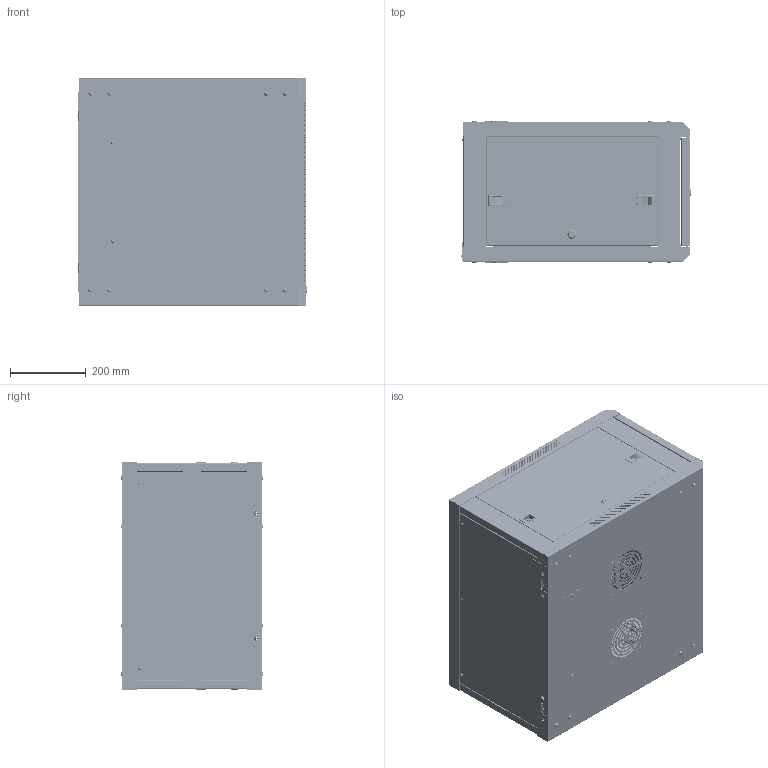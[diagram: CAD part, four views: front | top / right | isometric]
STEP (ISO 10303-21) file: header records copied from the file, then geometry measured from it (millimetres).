
FILE_DESCRIPTION( ( 'Unknown' ), '1' );
FILE_NAME( 'Q:/WEB DRAWINGS/STEP/RB-FW6.stp', 'Unknown', ( 'Unknown' ), ( 'Unknown' ), 'PSStep 16.0.42', 'Unknown', ' ' );
FILE_SCHEMA( ( 'AUTOMOTIVE_DESIGN { 1 0 10303 214 1 1 1 1 }' ) );
Length unit declared in the file: millimetre
Products named in the file (42): ÓÒÃÅ±ßº¸½Ó; ²£Á§ÓÒÃÅ±ß; ²£Á§Ñ¹Ìõ; ²åÏú×ø; M6ÖÐº¸ÂÝ¶¤; ×óÃÅ±ßº¸½Ó; ²£Á§×óÃÅ±ß; 20Ð¡Ô²Ëø; ËøÐ¾-20; ÂÝÄ¸ËøÐ¾; ²àÃÅËøÆ¬; curved single coil spring lock washers gb_GB_FASTENER_WASHER_CSLW 5; µæÈ¦M4; M4-10; ¿òº¸½Ó; ÉÏÏÂ¿ò; ×óÓÒ¿ò; ÃÅ×°Åä; ²£Á§; ²åÏú; µ¯»É; »º³åµæ; ½ÓµØ±êÖ¾; lock washer spring extra duty_ai_Extra Duty LW 0.216; flat washer type a narrow_ai_Preferred Narrow FW 0.19; hex nuts, style 1-grades ab gb_GB_FASTENER_NUT_SNAB1 M6-N; Assem1; µ×ÅÌ; ¶¥¸Ç; ºáÖ§¼Ü; ºó°å; Ö§¼Ü; ²àÃÅ; sk; ¸Ç°å; socket button head cap screw_ai_SBHCSCREW 0.25-20x0.4375-HX-N; hex flange nut_am_B18.2.2.4M - Hex flange nut, M8 x 1.25 --N; M4-8; ¹ÒÇ½°å; Ö§¼Ü2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
Assembly tree (114 placements, depth 4):
  Assem1
    µ×ÅÌ
    ¶¥¸Ç
    ºáÖ§¼Ü  x4
    ºó°å
    Ö§¼Ü  x2
    ²àÃÅ  x2
    sk  x4
    ¸Ç°å  x2
    socket button head cap screw_ai_SBHCSCREW 0.25-20x0.4375-HX-N  x16
    hex flange nut_am_B18.2.2.4M - Hex flange nut, M8 x 1.25 --N  x16
    M4-8  x12
    ¹ÒÇ½°å
    ½ÓµØ±êÖ¾
    Ö§¼Ü2  x2
    M6ÖÐº¸ÂÝ¶¤
    hex nuts, style 1-grades ab gb_GB_FASTENER_NUT_SNAB1 M6-N
    flat washer type a narrow_ai_Preferred Narrow FW 0.19
    lock washer spring extra duty_ai_Extra Duty LW 0.216
    3MMËÜÁÏµæÈ¦
    M5-10×Ô¹¥ÂÝ¶¤  x8
    ¿òº¸½Ó  x2
      ÉÏÏÂ¿ò
      ×óÓÒ¿ò
    ÃÅ×°Åä
      ²£Á§
      ²åÏú  x2
      µ¯»É  x2
      »º³åµæ  x2
      ½ÓµØ±êÖ¾
      lock washer spring extra duty_ai_Extra Duty LW 0.216
      flat washer type a narrow_ai_Preferred Narrow FW 0.19
      hex nuts, style 1-grades ab gb_GB_FASTENER_NUT_SNAB1 M6-N
      ×óÃÅ±ßº¸½Ó
        ²£Á§×óÃÅ±ß
        ²£Á§Ñ¹Ìõ
      ÓÒÃÅ±ßº¸½Ó
        ²£Á§ÓÒÃÅ±ß
        ²£Á§Ñ¹Ìõ
        ²åÏú×ø  x2
        M6ÖÐº¸ÂÝ¶¤
      20Ð¡Ô²Ëø
        ËøÐ¾-20
        ÂÝÄ¸ËøÐ¾
        ²àÃÅËøÆ¬
        curved single coil spring lock washers gb_GB_FASTENER_WASHER_CSLW 5
        µæÈ¦M4
        M4-10
    20Ð¡Ô²Ëø  x2
      ËøÐ¾-20
      ÂÝÄ¸ËøÐ¾
      ²àÃÅËøÆ¬
      curved single coil spring lock washers gb_GB_FASTENER_WASHER_CSLW 5
      µæÈ¦M4
      M4-10
Bounding box: 607.23 x 377.2 x 602 mm (x, y, z)
Volume: 3115730.5 mm3; surface area: 4659727.6 mm2
Topology: 122 solids, 138 shells, 7211 faces, 19634 edges, 12746 vertices
Faces by surface type: plane 3996, cylinder 2071, cone 513, bspline 373, extrusion 212, torus 26, sphere 20
Full cylindrical faces by diameter (mm): 0.5 x2, 1.8 x4, 3 x10, 3.2 x12, 3.5 x4, 4 x15, 4.2 x108, 4.917 x2, 5 x156, 5.2 x16, 5.4 x8, 5.5 x1, 5.563 x2, 5.78 x24, 6 x20, 6.35 x16, 6.8 x16, 8 x46, 8.5 x40, 10 x8, 11 x4, 11.1 x16, 11.82 x3, 11.9 x2, 12 x2, 12.7 x2, 13 x3, 15 x2, 16 x3, 16.5 x3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
Entity records: 128229 total; most frequent: CARTESIAN_POINT 33399, ORIENTED_EDGE 19490, DIRECTION 18973, EDGE_CURVE 9745, VECTOR 6587, VERTEX_POINT 6567, LINE 6497, AXIS2_PLACEMENT_3D 6193
